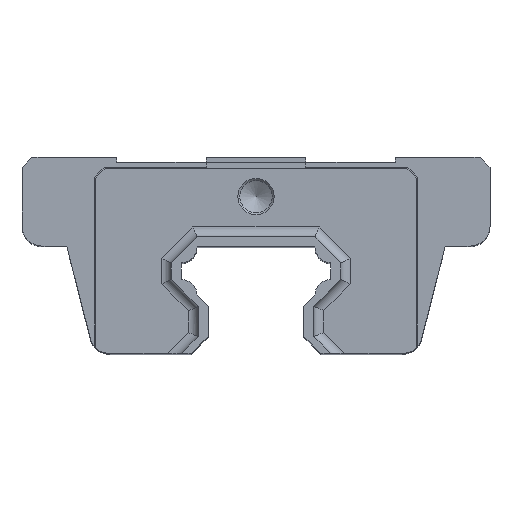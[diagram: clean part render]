
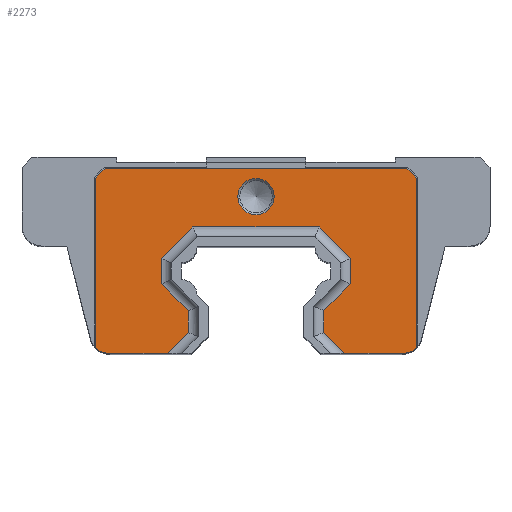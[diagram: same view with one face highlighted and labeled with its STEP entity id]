
A CAD part, top view. The second image highlights one B-rep face of the part: STEP entity #2273.
In plain terms, the highlighted planar face has unit normal (0, 0, 1).
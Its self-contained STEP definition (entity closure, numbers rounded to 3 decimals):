
#51=FACE_BOUND('',#369,.T.);
#61=PLANE('',#2423);
#247=FACE_OUTER_BOUND('',#368,.T.);
#368=EDGE_LOOP('',(#1633,#1634,#1635,#1636,#1637,#1638,#1639,#1640,#1641,
#1642,#1643,#1644,#1645,#1646,#1647,#1648,#1649,#1650,#1651,#1652));
#369=EDGE_LOOP('',(#1653));
#514=LINE('',#3329,#764);
#515=LINE('',#3331,#765);
#516=LINE('',#3333,#766);
#517=LINE('',#3335,#767);
#518=LINE('',#3339,#768);
#519=LINE('',#3341,#769);
#520=LINE('',#3343,#770);
#521=LINE('',#3345,#771);
#522=LINE('',#3347,#772);
#523=LINE('',#3349,#773);
#524=LINE('',#3351,#774);
#525=LINE('',#3353,#775);
#526=LINE('',#3355,#776);
#527=LINE('',#3357,#777);
#528=LINE('',#3359,#778);
#529=LINE('',#3361,#779);
#530=LINE('',#3363,#780);
#531=LINE('',#3366,#781);
#764=VECTOR('',#2664,10.);
#765=VECTOR('',#2665,10.);
#766=VECTOR('',#2666,10.);
#767=VECTOR('',#2667,10.);
#768=VECTOR('',#2670,10.);
#769=VECTOR('',#2671,10.);
#770=VECTOR('',#2672,10.);
#771=VECTOR('',#2673,10.);
#772=VECTOR('',#2674,10.);
#773=VECTOR('',#2675,10.);
#774=VECTOR('',#2676,10.);
#775=VECTOR('',#2677,10.);
#776=VECTOR('',#2678,10.);
#777=VECTOR('',#2679,10.);
#778=VECTOR('',#2680,10.);
#779=VECTOR('',#2681,10.);
#780=VECTOR('',#2682,10.);
#781=VECTOR('',#2685,10.);
#998=CIRCLE('',#2418,1.821);
#1002=CIRCLE('',#2424,2.);
#1003=CIRCLE('',#2425,2.);
#1064=VERTEX_POINT('',#3315);
#1068=VERTEX_POINT('',#3327);
#1069=VERTEX_POINT('',#3328);
#1070=VERTEX_POINT('',#3330);
#1071=VERTEX_POINT('',#3332);
#1072=VERTEX_POINT('',#3334);
#1073=VERTEX_POINT('',#3336);
#1074=VERTEX_POINT('',#3338);
#1075=VERTEX_POINT('',#3340);
#1076=VERTEX_POINT('',#3342);
#1077=VERTEX_POINT('',#3344);
#1078=VERTEX_POINT('',#3346);
#1079=VERTEX_POINT('',#3348);
#1080=VERTEX_POINT('',#3350);
#1081=VERTEX_POINT('',#3352);
#1082=VERTEX_POINT('',#3354);
#1083=VERTEX_POINT('',#3356);
#1084=VERTEX_POINT('',#3358);
#1085=VERTEX_POINT('',#3360);
#1086=VERTEX_POINT('',#3362);
#1087=VERTEX_POINT('',#3364);
#1284=EDGE_CURVE('',#1064,#1064,#998,.T.);
#1290=EDGE_CURVE('',#1068,#1069,#514,.T.);
#1291=EDGE_CURVE('',#1068,#1070,#515,.T.);
#1292=EDGE_CURVE('',#1071,#1070,#516,.T.);
#1293=EDGE_CURVE('',#1071,#1072,#517,.T.);
#1294=EDGE_CURVE('',#1073,#1072,#1002,.T.);
#1295=EDGE_CURVE('',#1073,#1074,#518,.T.);
#1296=EDGE_CURVE('',#1075,#1074,#519,.T.);
#1297=EDGE_CURVE('',#1076,#1075,#520,.T.);
#1298=EDGE_CURVE('',#1077,#1076,#521,.T.);
#1299=EDGE_CURVE('',#1078,#1077,#522,.T.);
#1300=EDGE_CURVE('',#1079,#1078,#523,.T.);
#1301=EDGE_CURVE('',#1080,#1079,#524,.T.);
#1302=EDGE_CURVE('',#1081,#1080,#525,.T.);
#1303=EDGE_CURVE('',#1082,#1081,#526,.T.);
#1304=EDGE_CURVE('',#1083,#1082,#527,.T.);
#1305=EDGE_CURVE('',#1084,#1083,#528,.T.);
#1306=EDGE_CURVE('',#1085,#1084,#529,.T.);
#1307=EDGE_CURVE('',#1085,#1086,#530,.T.);
#1308=EDGE_CURVE('',#1087,#1086,#1003,.T.);
#1309=EDGE_CURVE('',#1087,#1069,#531,.T.);
#1633=ORIENTED_EDGE('',*,*,#1290,.F.);
#1634=ORIENTED_EDGE('',*,*,#1291,.T.);
#1635=ORIENTED_EDGE('',*,*,#1292,.F.);
#1636=ORIENTED_EDGE('',*,*,#1293,.T.);
#1637=ORIENTED_EDGE('',*,*,#1294,.F.);
#1638=ORIENTED_EDGE('',*,*,#1295,.T.);
#1639=ORIENTED_EDGE('',*,*,#1296,.F.);
#1640=ORIENTED_EDGE('',*,*,#1297,.F.);
#1641=ORIENTED_EDGE('',*,*,#1298,.F.);
#1642=ORIENTED_EDGE('',*,*,#1299,.F.);
#1643=ORIENTED_EDGE('',*,*,#1300,.F.);
#1644=ORIENTED_EDGE('',*,*,#1301,.F.);
#1645=ORIENTED_EDGE('',*,*,#1302,.F.);
#1646=ORIENTED_EDGE('',*,*,#1303,.F.);
#1647=ORIENTED_EDGE('',*,*,#1304,.F.);
#1648=ORIENTED_EDGE('',*,*,#1305,.F.);
#1649=ORIENTED_EDGE('',*,*,#1306,.F.);
#1650=ORIENTED_EDGE('',*,*,#1307,.T.);
#1651=ORIENTED_EDGE('',*,*,#1308,.F.);
#1652=ORIENTED_EDGE('',*,*,#1309,.T.);
#1653=ORIENTED_EDGE('',*,*,#1284,.F.);
#2273=ADVANCED_FACE('',(#247,#51),#61,.T.);
#2418=AXIS2_PLACEMENT_3D('',#3316,#2650,#2651);
#2423=AXIS2_PLACEMENT_3D('',#3326,#2662,#2663);
#2424=AXIS2_PLACEMENT_3D('',#3337,#2668,#2669);
#2425=AXIS2_PLACEMENT_3D('',#3365,#2683,#2684);
#2650=DIRECTION('center_axis',(0.,0.,1.));
#2651=DIRECTION('ref_axis',(-1.,0.,0.));
#2662=DIRECTION('center_axis',(0.,0.,1.));
#2663=DIRECTION('ref_axis',(1.,0.,0.));
#2664=DIRECTION('',(0.707,-0.707,0.));
#2665=DIRECTION('',(-1.,0.,0.));
#2666=DIRECTION('',(0.707,0.707,0.));
#2667=DIRECTION('',(0.,-1.,0.));
#2668=DIRECTION('center_axis',(0.,0.,-1.));
#2669=DIRECTION('ref_axis',(-0.614,-0.79,0.));
#2670=DIRECTION('',(1.,0.,0.));
#2671=DIRECTION('',(-0.707,-0.707,0.));
#2672=DIRECTION('',(0.,-1.,0.));
#2673=DIRECTION('',(0.707,-0.707,0.));
#2674=DIRECTION('',(0.,-1.,0.));
#2675=DIRECTION('',(-0.707,-0.707,0.));
#2676=DIRECTION('',(-1.,0.,0.));
#2677=DIRECTION('',(-0.707,0.707,0.));
#2678=DIRECTION('',(0.,1.,0.));
#2679=DIRECTION('',(0.707,0.707,0.));
#2680=DIRECTION('',(0.,1.,0.));
#2681=DIRECTION('',(-0.707,0.707,0.));
#2682=DIRECTION('',(1.,0.,0.));
#2683=DIRECTION('center_axis',(0.,0.,-1.));
#2684=DIRECTION('ref_axis',(0.614,-0.79,0.));
#2685=DIRECTION('',(0.,1.,0.));
#3315=CARTESIAN_POINT('',(1.821,20.05,30.15));
#3316=CARTESIAN_POINT('Origin',(0.,20.05,30.15));
#3326=CARTESIAN_POINT('Origin',(0.,13.6,30.15));
#3327=CARTESIAN_POINT('',(15.15,22.9,30.15));
#3328=CARTESIAN_POINT('',(16.15,21.9,30.15));
#3329=CARTESIAN_POINT('',(13.938,24.113,30.15));
#3330=CARTESIAN_POINT('',(-15.15,22.9,30.15));
#3331=CARTESIAN_POINT('',(16.15,22.9,30.15));
#3332=CARTESIAN_POINT('',(-16.15,21.9,30.15));
#3333=CARTESIAN_POINT('',(-13.938,24.113,30.15));
#3334=CARTESIAN_POINT('',(-16.15,4.927,30.15));
#3335=CARTESIAN_POINT('',(-16.15,22.9,30.15));
#3336=CARTESIAN_POINT('',(-14.695,4.3,30.15));
#3337=CARTESIAN_POINT('Origin',(-14.695,6.3,30.15));
#3338=CARTESIAN_POINT('',(-8.914,4.3,30.15));
#3339=CARTESIAN_POINT('',(-16.25,4.3,30.15));
#3340=CARTESIAN_POINT('',(-6.8,6.414,30.15));
#3341=CARTESIAN_POINT('',(-4.007,9.207,30.15));
#3342=CARTESIAN_POINT('',(-6.8,8.603,30.15));
#3343=CARTESIAN_POINT('',(-6.8,9.8,30.15));
#3344=CARTESIAN_POINT('',(-9.5,11.303,30.15));
#3345=CARTESIAN_POINT('',(-6.203,8.006,30.15));
#3346=CARTESIAN_POINT('',(-9.5,13.832,30.15));
#3347=CARTESIAN_POINT('',(-9.5,12.659,30.15));
#3348=CARTESIAN_POINT('',(-6.332,17.,30.15));
#3349=CARTESIAN_POINT('',(-7.036,16.295,30.15));
#3350=CARTESIAN_POINT('',(6.332,17.,30.15));
#3351=CARTESIAN_POINT('',(-2.959,17.,30.15));
#3352=CARTESIAN_POINT('',(9.5,13.832,30.15));
#3353=CARTESIAN_POINT('',(5.745,17.586,30.15));
#3354=CARTESIAN_POINT('',(9.5,11.303,30.15));
#3355=CARTESIAN_POINT('',(9.5,13.509,30.15));
#3356=CARTESIAN_POINT('',(6.8,8.603,30.15));
#3357=CARTESIAN_POINT('',(7.553,9.356,30.15));
#3358=CARTESIAN_POINT('',(6.8,6.414,30.15));
#3359=CARTESIAN_POINT('',(6.8,11.309,30.15));
#3360=CARTESIAN_POINT('',(8.914,4.3,30.15));
#3361=CARTESIAN_POINT('',(3.157,10.057,30.15));
#3362=CARTESIAN_POINT('',(14.695,4.3,30.15));
#3363=CARTESIAN_POINT('',(6.5,4.3,30.15));
#3364=CARTESIAN_POINT('',(16.15,4.927,30.15));
#3365=CARTESIAN_POINT('Origin',(14.695,6.3,30.15));
#3366=CARTESIAN_POINT('',(16.15,4.3,30.15));
